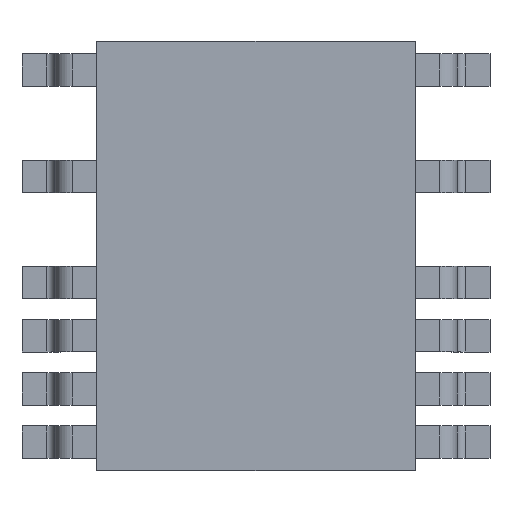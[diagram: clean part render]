
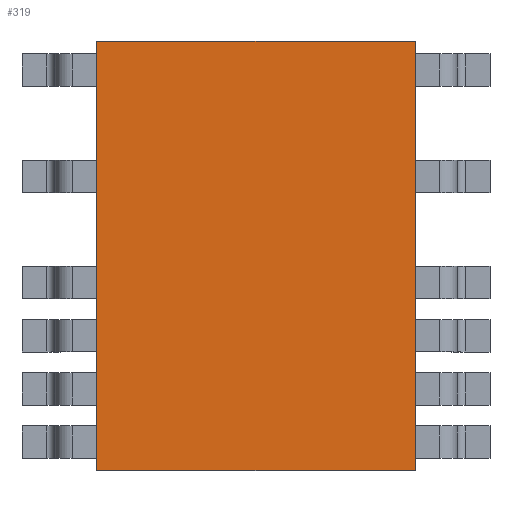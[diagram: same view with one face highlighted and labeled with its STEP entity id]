
A CAD part, top view. The second image highlights one B-rep face of the part: STEP entity #319.
In plain terms, the highlighted planar face has unit normal (0, 0, 1).
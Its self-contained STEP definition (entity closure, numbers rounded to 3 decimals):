
#95=CARTESIAN_POINT('',(1.499,-2.019,1.092));
#94=VERTEX_POINT('',#95);
#105=CARTESIAN_POINT('',(-1.499,-2.019,1.092));
#104=VERTEX_POINT('',#105);
#103=EDGE_CURVE('',#104,#94,#108,.T.);
#108=LINE('',#105,#110);
#110=VECTOR('',#111,2.997);
#111=DIRECTION('',(1.0,0.0,0.0));
#144=CARTESIAN_POINT('',(1.499,2.019,1.092));
#143=VERTEX_POINT('',#144);
#152=EDGE_CURVE('',#94,#143,#157,.T.);
#157=LINE('',#95,#159);
#159=VECTOR('',#160,4.039);
#160=DIRECTION('',(0.0,1.0,0.0));
#193=CARTESIAN_POINT('',(-1.499,2.019,1.092));
#192=VERTEX_POINT('',#193);
#201=EDGE_CURVE('',#143,#192,#206,.T.);
#206=LINE('',#144,#208);
#208=VECTOR('',#209,2.997);
#209=DIRECTION('',(-1.0,0.0,0.0));
#250=EDGE_CURVE('',#192,#104,#255,.T.);
#255=LINE('',#193,#257);
#257=VECTOR('',#258,4.039);
#258=DIRECTION('',(0.0,-1.0,0.0));
#319=ADVANCED_FACE('',(#325),#320,.T.);
#320=PLANE('',#321);
#321=AXIS2_PLACEMENT_3D('',#322,#323,#324);
#322=CARTESIAN_POINT('',(-1.499,-2.019,1.092));
#323=DIRECTION('',(0.0,0.0,1.0));
#324=DIRECTION('',(0.,1.,0.));
#325=FACE_OUTER_BOUND('',#326,.T.);
#326=EDGE_LOOP('',(#327,#337,#347,#357));
#327=ORIENTED_EDGE('',*,*,#103,.T.);
#337=ORIENTED_EDGE('',*,*,#152,.T.);
#347=ORIENTED_EDGE('',*,*,#201,.T.);
#357=ORIENTED_EDGE('',*,*,#250,.T.);
